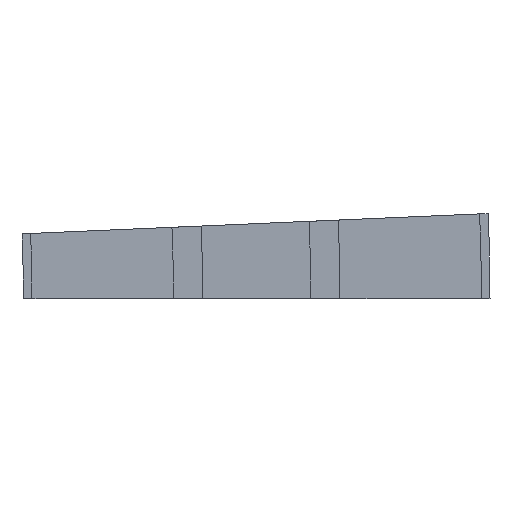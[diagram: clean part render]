
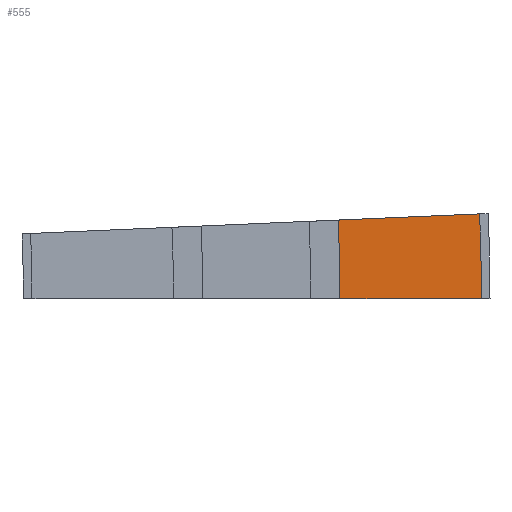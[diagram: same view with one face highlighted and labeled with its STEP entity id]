
A CAD part, left-side view. The second image highlights one B-rep face of the part: STEP entity #555.
In plain terms, the highlighted planar face has unit normal (-1, 0, 0).
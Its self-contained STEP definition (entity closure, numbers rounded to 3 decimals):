
#14 = AXIS2_PLACEMENT_3D ( 'NONE', #416, #415, #414 ) ;
#17 = AXIS2_PLACEMENT_3D ( 'NONE', #385, #383, #382 ) ;
#28 = AXIS2_PLACEMENT_3D ( 'NONE', #338, #333, #332 ) ;
#69 = CARTESIAN_POINT ( 'NONE',  ( -249.5, -24.25, 0. ) ) ;
#95 = CARTESIAN_POINT ( 'NONE',  ( -249.5, -23.751, 22.867 ) ) ;
#110 = CARTESIAN_POINT ( 'NONE',  ( -249.5, -64.962, 24.667 ) ) ;
#119 = CARTESIAN_POINT ( 'NONE',  ( -249.5, -65.5, 0. ) ) ;
#207 = EDGE_CURVE ( 'NONE', #829, #822, #946, .T. ) ;
#208 = EDGE_CURVE ( 'NONE', #587, #584, #942, .T. ) ;
#209 = EDGE_CURVE ( 'NONE', #584, #822, #949, .T. ) ;
#217 = EDGE_CURVE ( 'NONE', #587, #829, #962, .T. ) ;
#332 = DIRECTION ( 'NONE',  ( 0., 0., -1. ) ) ;
#333 = DIRECTION ( 'NONE',  ( 1., 0., 0. ) ) ;
#335 = PLANE ( 'NONE',  #28 ) ;
#338 = CARTESIAN_POINT ( 'NONE',  ( -249.5, -23.751, 22.867 ) ) ;
#382 = DIRECTION ( 'NONE',  ( 0., 0., -1. ) ) ;
#383 = DIRECTION ( 'NONE',  ( 1., 0., 0. ) ) ;
#385 = CARTESIAN_POINT ( 'NONE',  ( -249.5, 500., 0. ) ) ;
#414 = DIRECTION ( 'NONE',  ( 0., 0., -1. ) ) ;
#415 = DIRECTION ( 'NONE',  ( 1., 0., 0. ) ) ;
#416 = CARTESIAN_POINT ( 'NONE',  ( -249.5, 500., 0. ) ) ;
#421 = DIRECTION ( 'NONE',  ( 0., -0.999, 0.044 ) ) ;
#435 = CARTESIAN_POINT ( 'NONE',  ( -249.5, -23.751, 22.867 ) ) ;
#449 = CARTESIAN_POINT ( 'NONE',  ( -249.5, -24.25, 0. ) ) ;
#457 = DIRECTION ( 'NONE',  ( 0., -1., 0. ) ) ;
#555 = ADVANCED_FACE ( 'NONE', ( #973 ), #335, .F. ) ;
#584 = VERTEX_POINT ( 'NONE', #110 ) ;
#587 = VERTEX_POINT ( 'NONE', #95 ) ;
#624 = EDGE_LOOP ( 'NONE', ( #674, #675, #676, #677 ) ) ;
#674 = ORIENTED_EDGE ( 'NONE', *, *, #209, .F. ) ;
#675 = ORIENTED_EDGE ( 'NONE', *, *, #208, .F. ) ;
#676 = ORIENTED_EDGE ( 'NONE', *, *, #217, .T. ) ;
#677 = ORIENTED_EDGE ( 'NONE', *, *, #207, .T. ) ;
#822 = VERTEX_POINT ( 'NONE', #119 ) ;
#829 = VERTEX_POINT ( 'NONE', #69 ) ;
#942 = LINE ( 'NONE', #435, #950 ) ;
#946 = LINE ( 'NONE', #449, #948 ) ;
#948 = VECTOR ( 'NONE', #457, 1000. ) ;
#949 = CIRCLE ( 'NONE', #14, 565.5 ) ;
#950 = VECTOR ( 'NONE', #421, 1000. ) ;
#962 = CIRCLE ( 'NONE', #17, 524.25 ) ;
#973 = FACE_OUTER_BOUND ( 'NONE', #624, .T. ) ;
